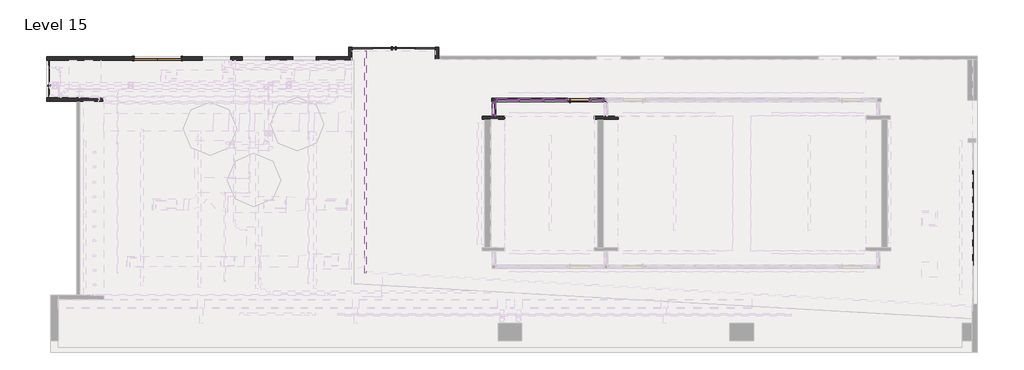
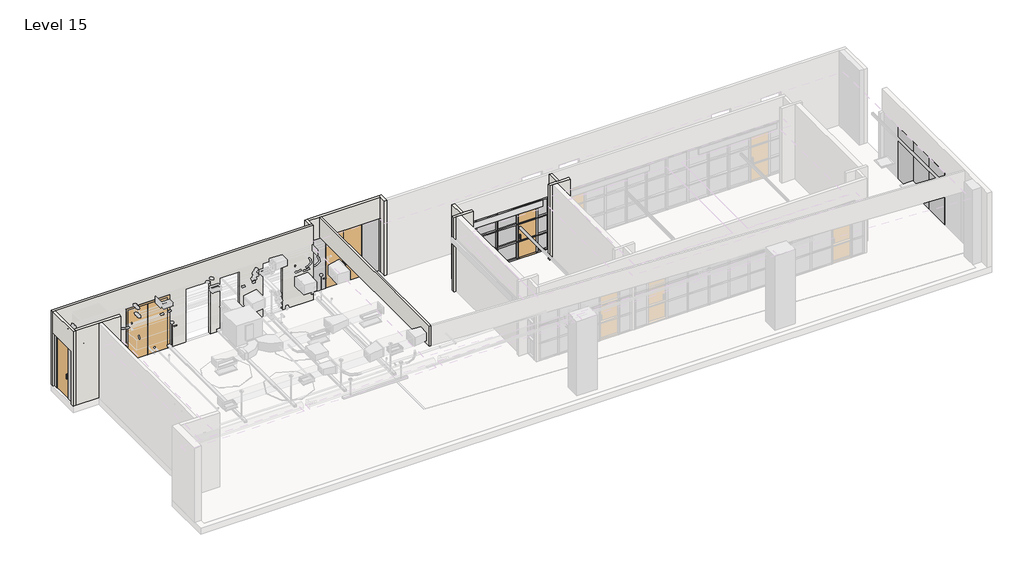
# One storey, part 4 of 11: 47 members, 23 plates, 11 walls, 4 doors.
"""IFC4 building model written with IfcOpenShell, lengths in millimetres."""

from ifc_helpers import new_model, si_unit, origin, place, context, project, spatial, faceted_brep, transform, mapped, element, save
from components import door_curtain_wall_single_glass_door_curtain_wall_single_wood_cd16bc55, door_e38457ce, m_door_curtain_wall_double_glass_m_door_curtain_wall_double_e74171b8, single_glass_door_door_curtain_wall_single_wood_f8af9d99, member_954a25dd, member_69cae7f1, member_69a911c1, member_c4e8739b, member_ae2b344b, member_e8c22809, member_75b1f528, member_4bf900b7, member_0079eb1d, member_377798e7, member_6aaa016f, member_a86ee493, member_0913546c, system_panel_glazed_a2e86c99, system_panel_glazed_5f2f0821, system_panel_glazed_c55544b5, system_panel_glazed_a68344bf, system_panel_glazed_f81f1869, system_panel_glazed_2e07d642, system_panel_glazed_fdbf88a6, system_panel_glazed_5c29f6be, system_panel_glazed_badf3451, system_panel_glazed_af863dd0, system_panel_glazed_a22f7e45, system_panel_glazed_e2c18884, system_panel_glazed_d4d25dca, system_panel_glazed_3e02181d, system_panel_glazed_dd8a9739, system_panel_glazed_3f411a17

model = new_model("IFC4")

# Units and contexts
model_context = context("Model", 3, world=origin())
ifc_project = project(units=[si_unit("LENGTHUNIT", "METRE", prefix="MILLI")], contexts=[model_context])

# Site, building, storey
site = spatial("IfcSite", under=ifc_project)
building = spatial("IfcBuilding", under=site)
storey = spatial("IfcBuildingStorey", under=building, Name="Level 15", Elevation=51206.4)

# Doors
placement = place(None, origin())
door_curtain_wall_single_glass_door_curtain_wall_single_wood_shape = door_curtain_wall_single_glass_door_curtain_wall_single_wood_cd16bc55(model_context)
element("IfcDoor", 1, ObjectType="Door-Curtain-Wall-Single-Glass : Door-Curtain-Wall-Single-Wood", at=placement, inside=storey, context=model_context, shape_type="MappedRepresentation", body=[
    mapped(door_curtain_wall_single_glass_door_curtain_wall_single_wood_shape, transform((2922.6369657, 3036.0059951, 51206.4), x_axis=(1.0, 0.0, 0.0), y_axis=(0.0, 1.0, 0.0), z_axis=(0.0, 0.0, 1.0))),
])
door_shape = door_e38457ce(model_context)
element("IfcDoor", 2, ObjectType="Door-Double-Flush_Panel : 74\" x 100\"", at=placement, inside=storey, context=model_context, shape_type="MappedRepresentation", body=[
    mapped(door_shape, transform((-13882.57525, 4696.9500496, 51206.4), x_axis=(1.0, 0.0, 0.0), y_axis=(0.0, 1.0, 0.0), z_axis=(0.0, 0.0, 1.0))),
])
m_door_curtain_wall_double_glass_m_door_curtain_wall_double_shape = m_door_curtain_wall_double_glass_m_door_curtain_wall_double_e74171b8(model_context)
element("IfcDoor", 3, ObjectType="M_Door-Curtain-Wall-Double-Glass : M_Door-Curtain-Wall-Double-Glass", at=placement, inside=storey, context=model_context, shape_type="MappedRepresentation", body=[
    mapped(m_door_curtain_wall_double_glass_m_door_curtain_wall_double_shape, transform((-4446.9144855, 5072.4081345, 51206.4), x_axis=(1.0, 0.0, 0.0), y_axis=(0.0, 1.0, 0.0), z_axis=(0.0, 0.0, 1.0))),
])
single_glass_door_door_curtain_wall_single_wood_shape = single_glass_door_door_curtain_wall_single_wood_f8af9d99(model_context)
element("IfcDoor", 4, ObjectType="Single-Glass Door : Door-Curtain-Wall-Single-Wood", at=placement, inside=storey, context=model_context, shape_type="MappedRepresentation", body=[
    mapped(single_glass_door_door_curtain_wall_single_wood_shape, transform((-18251.37525, 3976.2250496, 51206.4), x_axis=(0.0, 1.0, 0.0), y_axis=(-1.0, 0.0, 0.0), z_axis=(0.0, 0.0, 1.0))),
])

# Members
member_shape = member_954a25dd(model_context)
element("IfcMember", 5, ObjectType="Rectangular Mullion : 2.5\" x 5\" rectangular", at=placement, inside=storey, context=model_context, shape_type="MappedRepresentation", body=[
    mapped(member_shape, transform((4027.5369657, 2953.5059951, 51206.4), x_axis=(0.0, 1.0, 0.0), y_axis=(1.0, 0.0, 0.0), z_axis=(0.0, 0.0, -1.0))),
])
element("IfcMember", 6, ObjectType="Rectangular Mullion : 2.5\" x 5\" rectangular", at=placement, inside=storey, context=model_context, shape_type="MappedRepresentation", body=[
    mapped(member_shape, transform((-402.1055951, 3036.0059951, 51206.4), x_axis=(-1.0, 0.0, 0.0), y_axis=(0.0, 1.0, 0.0), z_axis=(0.0, 0.0, -1.0))),
])
element("IfcMember", 7, ObjectType="Rectangular Mullion : 2.5\" x 5\" rectangular", at=placement, inside=storey, context=model_context, shape_type="MappedRepresentation", body=[
    mapped(member_shape, transform((-442.9144534, 2976.416042, 51206.4), x_axis=(0.0, 1.0, 0.0), y_axis=(1.0, 0.0, 0.0), z_axis=(0.0, 0.0, -1.0))),
])
element("IfcMember", 8, ObjectType="Rectangular Mullion : 2.5\" x 5\" rectangular", at=placement, inside=storey, context=model_context, shape_type="MappedRepresentation", body=[
    mapped(member_shape, transform((3949.4264687, 3036.0059951, 53804.1570075), x_axis=(1.0, 0.0, 0.0), y_axis=(0.0, 1.0, 0.0), z_axis=(0.0, 0.0, 1.0))),
])
element("IfcMember", 9, ObjectType="Rectangular Mullion : 2.5\" x 5\" rectangular", at=placement, inside=storey, context=model_context, shape_type="MappedRepresentation", body=[
    mapped(member_shape, transform((-442.9144534, 2388.3059951, 53804.1570075), x_axis=(0.0, -1.0, 0.0), y_axis=(1.0, 0.0, 0.0), z_axis=(0.0, 0.0, 1.0))),
])
member_2_shape = member_69cae7f1(model_context)
element("IfcMember", 10, ObjectType="Rectangular Mullion : 2.5\" x 5\" rectangular", at=placement, inside=storey, context=model_context, shape_type="MappedRepresentation", body=[
    mapped(member_2_shape, transform((2465.4369657, 3036.0059951, 51206.4), x_axis=(-1.0, 0.0, 0.0), y_axis=(0.0, 1.0, 0.0), z_axis=(0.0, 0.0, -1.0))),
])
element("IfcMember", 11, ObjectType="Rectangular Mullion : 2.5\" x 5\" rectangular", at=placement, inside=storey, context=model_context, shape_type="MappedRepresentation", body=[
    mapped(member_2_shape, transform((3379.8369657, 3036.0059951, 51206.4), x_axis=(-1.0, 0.0, 0.0), y_axis=(0.0, 1.0, 0.0), z_axis=(0.0, 0.0, -1.0))),
])
element("IfcMember", 12, ObjectType="Rectangular Mullion : 2.5\" x 5\" rectangular", at=placement, inside=storey, context=model_context, shape_type="MappedRepresentation", body=[
    mapped(member_2_shape, transform((1517.1531593, 3036.0059951, 51206.4), x_axis=(-1.0, 0.0, 0.0), y_axis=(0.0, 1.0, 0.0), z_axis=(0.0, 0.0, -1.0))),
])
element("IfcMember", 13, ObjectType="Rectangular Mullion : 2.5\" x 5\" rectangular", at=placement, inside=storey, context=model_context, shape_type="MappedRepresentation", body=[
    mapped(member_2_shape, transform((528.6355466, 3036.0059951, 51206.4), x_axis=(-1.0, 0.0, 0.0), y_axis=(0.0, 1.0, 0.0), z_axis=(0.0, 0.0, -1.0))),
])
element("IfcMember", 14, ObjectType="Rectangular Mullion : 2.5\" x 5\" rectangular", at=placement, inside=storey, context=model_context, shape_type="MappedRepresentation", body=[
    mapped(member_2_shape, transform((3379.8369657, 3036.0059951, 52938.238005), x_axis=(-1.0, 0.0, 0.0), y_axis=(0.0, 1.0, 0.0), z_axis=(0.0, 0.0, -1.0))),
])
element("IfcMember", 15, ObjectType="Rectangular Mullion : 2.5\" x 5\" rectangular", at=placement, inside=storey, context=model_context, shape_type="MappedRepresentation", body=[
    mapped(member_2_shape, transform((2465.4369657, 3036.0059951, 52938.238005), x_axis=(-1.0, 0.0, 0.0), y_axis=(0.0, 1.0, 0.0), z_axis=(0.0, 0.0, -1.0))),
])
element("IfcMember", 16, ObjectType="Rectangular Mullion : 2.5\" x 5\" rectangular", at=placement, inside=storey, context=model_context, shape_type="MappedRepresentation", body=[
    mapped(member_2_shape, transform((1517.1531593, 3036.0059951, 52938.238005), x_axis=(-1.0, 0.0, 0.0), y_axis=(0.0, 1.0, 0.0), z_axis=(0.0, 0.0, -1.0))),
])
element("IfcMember", 17, ObjectType="Rectangular Mullion : 2.5\" x 5\" rectangular", at=placement, inside=storey, context=model_context, shape_type="MappedRepresentation", body=[
    mapped(member_2_shape, transform((528.6355466, 3036.0059951, 52938.238005), x_axis=(-1.0, 0.0, 0.0), y_axis=(0.0, 1.0, 0.0), z_axis=(0.0, 0.0, -1.0))),
])
element("IfcMember", 18, ObjectType="Rectangular Mullion : 2.5\" x 5\" rectangular", at=placement, inside=storey, context=model_context, shape_type="MappedRepresentation", body=[
    mapped(member_2_shape, transform((3379.8369657, 3036.0059951, 52072.3190025), x_axis=(-1.0, 0.0, 0.0), y_axis=(0.0, 1.0, 0.0), z_axis=(0.0, 0.0, -1.0))),
])
element("IfcMember", 19, ObjectType="Rectangular Mullion : 2.5\" x 5\" rectangular", at=placement, inside=storey, context=model_context, shape_type="MappedRepresentation", body=[
    mapped(member_2_shape, transform((2465.4369657, 3036.0059951, 52072.3190025), x_axis=(-1.0, 0.0, 0.0), y_axis=(0.0, 1.0, 0.0), z_axis=(0.0, 0.0, -1.0))),
])
element("IfcMember", 20, ObjectType="Rectangular Mullion : 2.5\" x 5\" rectangular", at=placement, inside=storey, context=model_context, shape_type="MappedRepresentation", body=[
    mapped(member_2_shape, transform((1517.1531593, 3036.0059951, 52072.3190025), x_axis=(-1.0, 0.0, 0.0), y_axis=(0.0, 1.0, 0.0), z_axis=(0.0, 0.0, -1.0))),
])
element("IfcMember", 21, ObjectType="Rectangular Mullion : 2.5\" x 5\" rectangular", at=placement, inside=storey, context=model_context, shape_type="MappedRepresentation", body=[
    mapped(member_2_shape, transform((528.6355466, 3036.0059951, 52072.3190025), x_axis=(-1.0, 0.0, 0.0), y_axis=(0.0, 1.0, 0.0), z_axis=(0.0, 0.0, -1.0))),
])
member_3_shape = member_69a911c1(model_context)
element("IfcMember", 22, ObjectType="Rectangular Mullion : 2.5\" x 5\" rectangular", at=placement, inside=storey, context=model_context, shape_type="MappedRepresentation", body=[
    mapped(member_3_shape, transform((4027.5369657, 2890.0059951, 53804.1570075), x_axis=(0.0, 0.0, 1.0), y_axis=(1.0, 0.0, 0.0), z_axis=(0.0, 1.0, 0.0))),
])
element("IfcMember", 23, ObjectType="Rectangular Mullion : 2.5\" x 5\" rectangular", at=placement, inside=storey, context=model_context, shape_type="MappedRepresentation", body=[
    mapped(member_3_shape, transform((4027.5369657, 2458.2059951, 51206.4), x_axis=(0.0, 0.0, -1.0), y_axis=(1.0, 0.0, 0.0), z_axis=(0.0, -1.0, 0.0))),
])
member_4_shape = member_c4e8739b(model_context)
element("IfcMember", 24, ObjectType="Rectangular Mullion : 2.5\" x 5\" rectangular", at=placement, inside=storey, context=model_context, shape_type="MappedRepresentation", body=[
    mapped(member_4_shape, transform((2433.6869657, 3036.0059951, 51206.4), x_axis=(0.0, 0.0, -1.0), y_axis=(0.0, 1.0, 0.0), z_axis=(1.0, 0.0, 0.0))),
])
member_5_shape = member_ae2b344b(model_context)
element("IfcMember", 25, ObjectType="Rectangular Mullion : 2.5\" x 5\" rectangular", at=placement, inside=storey, context=model_context, shape_type="MappedRepresentation", body=[
    mapped(member_5_shape, transform((1548.9031593, 3036.0059951, 52938.238005), x_axis=(0.0, 0.0, 1.0), y_axis=(0.0, 1.0, 0.0), z_axis=(-1.0, 0.0, 0.0))),
])
element("IfcMember", 26, ObjectType="Rectangular Mullion : 2.5\" x 5\" rectangular", at=placement, inside=storey, context=model_context, shape_type="MappedRepresentation", body=[
    mapped(member_5_shape, transform((1548.9031593, 3036.0059951, 52072.3190025), x_axis=(0.0, 0.0, 1.0), y_axis=(0.0, 1.0, 0.0), z_axis=(-1.0, 0.0, 0.0))),
])
element("IfcMember", 27, ObjectType="Rectangular Mullion : 2.5\" x 5\" rectangular", at=placement, inside=storey, context=model_context, shape_type="MappedRepresentation", body=[
    mapped(member_4_shape, transform((1548.9031593, 3036.0059951, 53804.1570075), x_axis=(0.0, 0.0, 1.0), y_axis=(0.0, 1.0, 0.0), z_axis=(-1.0, 0.0, 0.0))),
])
member_6_shape = member_e8c22809(model_context)
element("IfcMember", 28, ObjectType="Rectangular Mullion : 2.5\" x 5\" rectangular", at=placement, inside=storey, context=model_context, shape_type="MappedRepresentation", body=[
    mapped(member_6_shape, transform((1485.4031593, 3036.0059951, 51206.4), x_axis=(0.0, 0.0, -1.0), y_axis=(0.0, 1.0, 0.0), z_axis=(1.0, 0.0, 0.0))),
])
member_7_shape = member_75b1f528(model_context)
element("IfcMember", 29, ObjectType="Rectangular Mullion : 2.5\" x 5\" rectangular", at=placement, inside=storey, context=model_context, shape_type="MappedRepresentation", body=[
    mapped(member_7_shape, transform((560.3855466, 3036.0059951, 52072.3190025), x_axis=(0.0, 0.0, 1.0), y_axis=(0.0, 1.0, 0.0), z_axis=(-1.0, 0.0, 0.0))),
])
element("IfcMember", 30, ObjectType="Rectangular Mullion : 2.5\" x 5\" rectangular", at=placement, inside=storey, context=model_context, shape_type="MappedRepresentation", body=[
    mapped(member_7_shape, transform((560.3855466, 3036.0059951, 52938.238005), x_axis=(0.0, 0.0, 1.0), y_axis=(0.0, 1.0, 0.0), z_axis=(-1.0, 0.0, 0.0))),
])
element("IfcMember", 31, ObjectType="Rectangular Mullion : 2.5\" x 5\" rectangular", at=placement, inside=storey, context=model_context, shape_type="MappedRepresentation", body=[
    mapped(member_6_shape, transform((560.3855466, 3036.0059951, 53804.1570075), x_axis=(0.0, 0.0, 1.0), y_axis=(0.0, 1.0, 0.0), z_axis=(-1.0, 0.0, 0.0))),
])
element("IfcMember", 32, ObjectType="Rectangular Mullion : 2.5\" x 5\" rectangular", at=placement, inside=storey, context=model_context, shape_type="MappedRepresentation", body=[
    mapped(member_shape, transform((-402.1055951, 3036.0059951, 52938.238005), x_axis=(-1.0, 0.0, 0.0), y_axis=(0.0, 1.0, 0.0), z_axis=(0.0, 0.0, -1.0))),
])
element("IfcMember", 33, ObjectType="Rectangular Mullion : 2.5\" x 5\" rectangular", at=placement, inside=storey, context=model_context, shape_type="MappedRepresentation", body=[
    mapped(member_shape, transform((-442.9144534, 2976.416042, 52938.238005), x_axis=(0.0, 1.0, 0.0), y_axis=(1.0, 0.0, 0.0), z_axis=(0.0, 0.0, -1.0))),
])
element("IfcMember", 34, ObjectType="Rectangular Mullion : 2.5\" x 5\" rectangular", at=placement, inside=storey, context=model_context, shape_type="MappedRepresentation", body=[
    mapped(member_shape, transform((3949.4264687, 3036.0059951, 52938.238005), x_axis=(1.0, 0.0, 0.0), y_axis=(0.0, 1.0, 0.0), z_axis=(0.0, 0.0, 1.0))),
])
element("IfcMember", 35, ObjectType="Rectangular Mullion : 2.5\" x 5\" rectangular", at=placement, inside=storey, context=model_context, shape_type="MappedRepresentation", body=[
    mapped(member_shape, transform((-442.9144534, 2388.3059951, 52938.238005), x_axis=(0.0, -1.0, 0.0), y_axis=(1.0, 0.0, 0.0), z_axis=(0.0, 0.0, 1.0))),
])
element("IfcMember", 36, ObjectType="Rectangular Mullion : 2.5\" x 5\" rectangular", at=placement, inside=storey, context=model_context, shape_type="MappedRepresentation", body=[
    mapped(member_shape, transform((-402.1055951, 3036.0059951, 52072.3190025), x_axis=(-1.0, 0.0, 0.0), y_axis=(0.0, 1.0, 0.0), z_axis=(0.0, 0.0, -1.0))),
])
element("IfcMember", 37, ObjectType="Rectangular Mullion : 2.5\" x 5\" rectangular", at=placement, inside=storey, context=model_context, shape_type="MappedRepresentation", body=[
    mapped(member_shape, transform((-442.9144534, 2976.416042, 52072.3190025), x_axis=(0.0, 1.0, 0.0), y_axis=(1.0, 0.0, 0.0), z_axis=(0.0, 0.0, -1.0))),
])
element("IfcMember", 38, ObjectType="Rectangular Mullion : 2.5\" x 5\" rectangular", at=placement, inside=storey, context=model_context, shape_type="MappedRepresentation", body=[
    mapped(member_shape, transform((3949.4264687, 3036.0059951, 52072.3190025), x_axis=(1.0, 0.0, 0.0), y_axis=(0.0, 1.0, 0.0), z_axis=(0.0, 0.0, 1.0))),
])
element("IfcMember", 39, ObjectType="Rectangular Mullion : 2.5\" x 5\" rectangular", at=placement, inside=storey, context=model_context, shape_type="MappedRepresentation", body=[
    mapped(member_shape, transform((-442.9144534, 2388.3059951, 52072.3190025), x_axis=(0.0, -1.0, 0.0), y_axis=(1.0, 0.0, 0.0), z_axis=(0.0, 0.0, 1.0))),
])
member_8_shape = member_4bf900b7(model_context)
element("IfcMember", 40, ObjectType="Rectangular Mullion : 2.5\" x 5\" rectangular", at=placement, inside=storey, context=model_context, shape_type="MappedRepresentation", body=[
    mapped(member_8_shape, transform((-338.6055951, 3036.0059951, 53804.1570075), x_axis=(0.0, 0.0, 1.0), y_axis=(0.0, 1.0, 0.0), z_axis=(-1.0, 0.0, 0.0))),
])
member_9_shape = member_0079eb1d(model_context)
element("IfcMember", 41, ObjectType="Rectangular Mullion : 2.5\" x 5\" rectangular", at=placement, inside=storey, context=model_context, shape_type="MappedRepresentation", body=[
    mapped(member_9_shape, transform((3885.9264687, 3036.0059951, 51206.4), x_axis=(0.0, 0.0, -1.0), y_axis=(0.0, 1.0, 0.0), z_axis=(1.0, 0.0, 0.0))),
])
element("IfcMember", 42, ObjectType="Rectangular Mullion : 2.5\" x 5\" rectangular", at=placement, inside=storey, context=model_context, shape_type="MappedRepresentation", body=[
    mapped(member_9_shape, transform((3411.5869657, 3036.0059951, 53804.1570075), x_axis=(0.0, 0.0, 1.0), y_axis=(0.0, 1.0, 0.0), z_axis=(-1.0, 0.0, 0.0))),
])
member_10_shape = member_377798e7(model_context)
element("IfcMember", 43, ObjectType="Rectangular Mullion : 2.5\" x 5\" rectangular", at=placement, inside=storey, context=model_context, shape_type="MappedRepresentation", body=[
    mapped(member_10_shape, transform((3411.5869657, 3036.0059951, 52938.238005), x_axis=(0.0, 0.0, 1.0), y_axis=(0.0, 1.0, 0.0), z_axis=(-1.0, 0.0, 0.0))),
])
element("IfcMember", 44, ObjectType="Rectangular Mullion : 2.5\" x 5\" rectangular", at=placement, inside=storey, context=model_context, shape_type="MappedRepresentation", body=[
    mapped(member_10_shape, transform((3411.5869657, 3036.0059951, 52072.3190025), x_axis=(0.0, 0.0, 1.0), y_axis=(0.0, 1.0, 0.0), z_axis=(-1.0, 0.0, 0.0))),
])
element("IfcMember", 45, ObjectType="Rectangular Mullion : 2.5\" x 5\" rectangular", at=placement, inside=storey, context=model_context, shape_type="MappedRepresentation", body=[
    mapped(member_8_shape, transform((496.8855466, 3036.0059951, 51206.4), x_axis=(0.0, 0.0, -1.0), y_axis=(0.0, 1.0, 0.0), z_axis=(1.0, 0.0, 0.0))),
])
member_11_shape = member_6aaa016f(model_context)
element("IfcMember", 46, ObjectType="Rectangular Mullion : 2.5\" x 5\" rectangular", at=placement, inside=storey, context=model_context, shape_type="MappedRepresentation", body=[
    mapped(member_11_shape, transform((-338.6055951, 3036.0059951, 52072.3190025), x_axis=(0.0, 0.0, 1.0), y_axis=(0.0, 1.0, 0.0), z_axis=(-1.0, 0.0, 0.0))),
])
element("IfcMember", 47, ObjectType="Rectangular Mullion : 2.5\" x 5\" rectangular", at=placement, inside=storey, context=model_context, shape_type="MappedRepresentation", body=[
    mapped(member_11_shape, transform((-338.6055951, 3036.0059951, 52938.238005), x_axis=(0.0, 0.0, 1.0), y_axis=(0.0, 1.0, 0.0), z_axis=(-1.0, 0.0, 0.0))),
])
member_12_shape = member_a86ee493(model_context)
element("IfcMember", 48, ObjectType="Rectangular Mullion : 2.5\" x 5\" rectangular", at=placement, inside=storey, context=model_context, shape_type="MappedRepresentation", body=[
    mapped(member_12_shape, transform((-442.9144534, 2912.916042, 53804.1570075), x_axis=(0.0, 0.0, 1.0), y_axis=(1.0, 0.0, 0.0), z_axis=(0.0, 1.0, 0.0))),
])
element("IfcMember", 49, ObjectType="Rectangular Mullion : 2.5\" x 5\" rectangular", at=placement, inside=storey, context=model_context, shape_type="MappedRepresentation", body=[
    mapped(member_12_shape, transform((-442.9144534, 2451.8059951, 51206.4), x_axis=(0.0, 0.0, -1.0), y_axis=(1.0, 0.0, 0.0), z_axis=(0.0, -1.0, 0.0))),
])
member_13_shape = member_0913546c(model_context)
element("IfcMember", 50, ObjectType="Rectangular Mullion : 2.5\" x 5\" rectangular", at=placement, inside=storey, context=model_context, shape_type="MappedRepresentation", body=[
    mapped(member_13_shape, transform((-442.9144534, 2912.916042, 52938.238005), x_axis=(0.0, 0.0, 1.0), y_axis=(1.0, 0.0, 0.0), z_axis=(0.0, 1.0, 0.0))),
])
element("IfcMember", 51, ObjectType="Rectangular Mullion : 2.5\" x 5\" rectangular", at=placement, inside=storey, context=model_context, shape_type="MappedRepresentation", body=[
    mapped(member_13_shape, transform((-442.9144534, 2912.916042, 52072.3190025), x_axis=(0.0, 0.0, 1.0), y_axis=(1.0, 0.0, 0.0), z_axis=(0.0, 1.0, 0.0))),
])

# Plates
system_panel_glazed_shape = system_panel_glazed_a2e86c99(model_context)
element("IfcPlate", 52, ObjectType="System Panel : Glazed", at=placement, inside=storey, context=model_context, shape_type="MappedRepresentation", body=[
    mapped(system_panel_glazed_shape, transform((18645.0084916, -411.2064015, 51206.4), x_axis=(0.0, -1.0, 0.0), y_axis=(1.0, 0.0, 0.0), z_axis=(0.0, 0.0, 1.0))),
])
element("IfcPlate", 53, ObjectType="System Panel : Glazed", at=placement, inside=storey, context=model_context, shape_type="MappedRepresentation", body=[
    mapped(system_panel_glazed_shape, transform((18645.0084916, -1681.2064015, 51206.4), x_axis=(0.0, -1.0, 0.0), y_axis=(1.0, 0.0, 0.0), z_axis=(0.0, 0.0, 1.0))),
])
element("IfcPlate", 54, ObjectType="System Panel : Glazed", at=placement, inside=storey, context=model_context, shape_type="MappedRepresentation", body=[
    mapped(system_panel_glazed_shape, transform((18645.0084916, -2951.2064015, 51206.4), x_axis=(0.0, -1.0, 0.0), y_axis=(1.0, 0.0, 0.0), z_axis=(0.0, 0.0, 1.0))),
])
system_panel_glazed_2_shape = system_panel_glazed_5f2f0821(model_context)
element("IfcPlate", 55, ObjectType="System Panel : Glazed", at=placement, inside=storey, context=model_context, shape_type="MappedRepresentation", body=[
    mapped(system_panel_glazed_2_shape, transform((4027.5369657, 2674.1059951, 51269.9), x_axis=(0.0, 1.0, 0.0), y_axis=(-1.0, 0.0, 0.0), z_axis=(0.0, 0.0, 1.0))),
])
system_panel_glazed_3_shape = system_panel_glazed_c55544b5(model_context)
element("IfcPlate", 56, ObjectType="System Panel : Glazed", at=placement, inside=storey, context=model_context, shape_type="MappedRepresentation", body=[
    mapped(system_panel_glazed_3_shape, transform((1991.2950625, 3036.0059951, 51269.9), x_axis=(-1.0, 0.0, 0.0), y_axis=(0.0, -1.0, 0.0), z_axis=(0.0, 0.0, 1.0))),
])
element("IfcPlate", 57, ObjectType="System Panel : Glazed", at=placement, inside=storey, context=model_context, shape_type="MappedRepresentation", body=[
    mapped(system_panel_glazed_3_shape, transform((1991.2950625, 3036.0059951, 52969.988005), x_axis=(-1.0, 0.0, 0.0), y_axis=(0.0, -1.0, 0.0), z_axis=(0.0, 0.0, 1.0))),
])
system_panel_glazed_4_shape = system_panel_glazed_a68344bf(model_context)
element("IfcPlate", 58, ObjectType="System Panel : Glazed", at=placement, inside=storey, context=model_context, shape_type="MappedRepresentation", body=[
    mapped(system_panel_glazed_4_shape, transform((1991.2950625, 3036.0059951, 52104.0690025), x_axis=(-1.0, 0.0, 0.0), y_axis=(0.0, -1.0, 0.0), z_axis=(0.0, 0.0, 1.0))),
])
system_panel_glazed_5_shape = system_panel_glazed_f81f1869(model_context)
element("IfcPlate", 59, ObjectType="System Panel : Glazed", at=placement, inside=storey, context=model_context, shape_type="MappedRepresentation", body=[
    mapped(system_panel_glazed_5_shape, transform((1022.894353, 3036.0059951, 51269.9), x_axis=(-1.0, 0.0, 0.0), y_axis=(0.0, -1.0, 0.0), z_axis=(0.0, 0.0, 1.0))),
])
element("IfcPlate", 60, ObjectType="System Panel : Glazed", at=placement, inside=storey, context=model_context, shape_type="MappedRepresentation", body=[
    mapped(system_panel_glazed_5_shape, transform((1022.894353, 3036.0059951, 52969.988005), x_axis=(-1.0, 0.0, 0.0), y_axis=(0.0, -1.0, 0.0), z_axis=(0.0, 0.0, 1.0))),
])
system_panel_glazed_6_shape = system_panel_glazed_2e07d642(model_context)
element("IfcPlate", 61, ObjectType="System Panel : Glazed", at=placement, inside=storey, context=model_context, shape_type="MappedRepresentation", body=[
    mapped(system_panel_glazed_6_shape, transform((1022.894353, 3036.0059951, 52104.0690025), x_axis=(-1.0, 0.0, 0.0), y_axis=(0.0, -1.0, 0.0), z_axis=(0.0, 0.0, 1.0))),
])
system_panel_glazed_7_shape = system_panel_glazed_fdbf88a6(model_context)
element("IfcPlate", 62, ObjectType="System Panel : Glazed", at=placement, inside=storey, context=model_context, shape_type="MappedRepresentation", body=[
    mapped(system_panel_glazed_7_shape, transform((3648.7567172, 3036.0059951, 51269.9), x_axis=(-1.0, 0.0, 0.0), y_axis=(0.0, -1.0, 0.0), z_axis=(0.0, 0.0, 1.0))),
])
element("IfcPlate", 63, ObjectType="System Panel : Glazed", at=placement, inside=storey, context=model_context, shape_type="MappedRepresentation", body=[
    mapped(system_panel_glazed_7_shape, transform((3648.7567172, 3036.0059951, 52969.988005), x_axis=(-1.0, 0.0, 0.0), y_axis=(0.0, -1.0, 0.0), z_axis=(0.0, 0.0, 1.0))),
])
system_panel_glazed_8_shape = system_panel_glazed_5c29f6be(model_context)
element("IfcPlate", 64, ObjectType="System Panel : Glazed", at=placement, inside=storey, context=model_context, shape_type="MappedRepresentation", body=[
    mapped(system_panel_glazed_8_shape, transform((-442.9144534, 2682.3610185, 51269.9), x_axis=(0.0, 1.0, 0.0), y_axis=(-1.0, 0.0, 0.0), z_axis=(0.0, 0.0, 1.0))),
])
element("IfcPlate", 65, ObjectType="System Panel : Glazed", at=placement, inside=storey, context=model_context, shape_type="MappedRepresentation", body=[
    mapped(system_panel_glazed_8_shape, transform((-442.9144534, 2682.3610185, 52969.988005), x_axis=(0.0, 1.0, 0.0), y_axis=(-1.0, 0.0, 0.0), z_axis=(0.0, 0.0, 1.0))),
])
system_panel_glazed_9_shape = system_panel_glazed_badf3451(model_context)
element("IfcPlate", 66, ObjectType="System Panel : Glazed", at=placement, inside=storey, context=model_context, shape_type="MappedRepresentation", body=[
    mapped(system_panel_glazed_9_shape, transform((3648.7567172, 3036.0059951, 52104.0690025), x_axis=(-1.0, 0.0, 0.0), y_axis=(0.0, -1.0, 0.0), z_axis=(0.0, 0.0, 1.0))),
])
system_panel_glazed_10_shape = system_panel_glazed_af863dd0(model_context)
element("IfcPlate", 67, ObjectType="System Panel : Glazed", at=placement, inside=storey, context=model_context, shape_type="MappedRepresentation", body=[
    mapped(system_panel_glazed_10_shape, transform((79.1399758, 3036.0059951, 51269.9), x_axis=(-1.0, 0.0, 0.0), y_axis=(0.0, -1.0, 0.0), z_axis=(0.0, 0.0, 1.0))),
])
element("IfcPlate", 68, ObjectType="System Panel : Glazed", at=placement, inside=storey, context=model_context, shape_type="MappedRepresentation", body=[
    mapped(system_panel_glazed_10_shape, transform((79.1399758, 3036.0059951, 52969.988005), x_axis=(-1.0, 0.0, 0.0), y_axis=(0.0, -1.0, 0.0), z_axis=(0.0, 0.0, 1.0))),
])
system_panel_glazed_11_shape = system_panel_glazed_a22f7e45(model_context)
element("IfcPlate", 69, ObjectType="System Panel : Glazed", at=placement, inside=storey, context=model_context, shape_type="MappedRepresentation", body=[
    mapped(system_panel_glazed_11_shape, transform((79.1399758, 3036.0059951, 52104.0690025), x_axis=(-1.0, 0.0, 0.0), y_axis=(0.0, -1.0, 0.0), z_axis=(0.0, 0.0, 1.0))),
])
system_panel_glazed_12_shape = system_panel_glazed_e2c18884(model_context)
element("IfcPlate", 70, ObjectType="System Panel : Glazed", at=placement, inside=storey, context=model_context, shape_type="MappedRepresentation", body=[
    mapped(system_panel_glazed_12_shape, transform((-442.9144534, 2682.3610185, 52104.0690025), x_axis=(0.0, 1.0, 0.0), y_axis=(-1.0, 0.0, 0.0), z_axis=(0.0, 0.0, 1.0))),
])
system_panel_glazed_13_shape = system_panel_glazed_d4d25dca(model_context)
element("IfcPlate", 71, ObjectType="System Panel : Glazed", at=placement, inside=storey, context=model_context, shape_type="MappedRepresentation", body=[
    mapped(system_panel_glazed_13_shape, transform((-18251.37525, 4533.4375496, 51206.4), x_axis=(0.0, -1.0, 0.0), y_axis=(1.0, 0.0, 0.0), z_axis=(0.0, 0.0, 1.0))),
])
system_panel_glazed_14_shape = system_panel_glazed_3e02181d(model_context)
element("IfcPlate", 72, ObjectType="System Panel : Glazed", at=placement, inside=storey, context=model_context, shape_type="MappedRepresentation", body=[
    mapped(system_panel_glazed_14_shape, transform((-18251.37525, 3328.5250496, 51206.4), x_axis=(0.0, -1.0, 0.0), y_axis=(1.0, 0.0, 0.0), z_axis=(0.0, 0.0, 1.0))),
])
system_panel_glazed_15_shape = system_panel_glazed_dd8a9739(model_context)
element("IfcPlate", 73, ObjectType="System Panel : Glazed", at=placement, inside=storey, context=model_context, shape_type="MappedRepresentation", body=[
    mapped(system_panel_glazed_15_shape, transform((-3199.4811847, 5072.4081345, 51206.4), x_axis=(1.0, 0.0, 0.0), y_axis=(0.0, 1.0, 0.0), z_axis=(0.0, 0.0, 1.0))),
])
system_panel_glazed_16_shape = system_panel_glazed_3f411a17(model_context)
element("IfcPlate", 74, ObjectType="System Panel : Glazed", at=placement, inside=storey, context=model_context, shape_type="MappedRepresentation", body=[
    mapped(system_panel_glazed_16_shape, transform((-5691.5144855, 5072.4081345, 51206.4), x_axis=(1.0, 0.0, 0.0), y_axis=(0.0, 1.0, 0.0), z_axis=(0.0, 0.0, 1.0))),
])

# Walls
element("IfcWall", 75, ObjectType="Generic - 3\"", at=placement, inside=storey, context=model_context, shape_type="Brep", body=[
    faceted_brep([(-5614.87525, 5008.9081345, 53889.275), (-5614.87525, -3879.7923298, 53889.275), (-5614.87525, -3879.7923298, 54889.4), (-5614.87525, 5008.9081345, 54889.4), (-5538.67525, 5008.9081345, 53889.275), (-5538.67525, 5008.9081345, 54889.4), (-5538.67525, -3807.7325414, 54889.4), (-5538.67525, -3884.0514798, 54889.4), (-5538.67525, -3884.0514798, 53889.275), (-5538.67525, -3807.7325414, 53889.275)], [[[0, 1, 2, 3]], [[4, 5, 6, 7, 8, 9]], [[1, 0, 4, 9, 8]], [[3, 2, 7, 6, 5]], [[0, 3, 5, 4]], [[2, 1, 8, 7]]]),
])
element("IfcWall", 76, ObjectType="Generic - 5\"", at=placement, inside=storey, context=model_context, shape_type="Brep", body=[
    faceted_brep([(-18314.87525, 4760.4500496, 54889.4), (-6249.87525, 4760.4500496, 54889.4), (-6122.87525, 4760.4500496, 54889.4), (-6122.87525, 4760.4500496, 51206.4), (-6249.87525, 4760.4500496, 51206.4), (-7547.97525, 4760.4500496, 51206.4), (-7547.97525, 4760.4500496, 53807.2), (-8482.37525, 4760.4500496, 53807.2), (-8482.37525, 4760.4500496, 51206.4), (-9567.27525, 4760.4500496, 51206.4), (-9567.27525, 4760.4500496, 53807.2), (-10501.67525, 4760.4500496, 53807.2), (-10501.67525, 4760.4500496, 51206.4), (-10951.57525, 4760.4500496, 51206.4), (-10951.57525, 4760.4500496, 53807.2), (-12089.17525, 4760.4500496, 53807.2), (-12089.17525, 4760.4500496, 51206.4), (-12942.77525, 4760.4500496, 51206.4), (-12942.77525, 4760.4500496, 53746.4), (-14822.37525, 4760.4500496, 53746.4), (-14822.37525, 4760.4500496, 51206.4), (-18314.87525, 4760.4500496, 51206.4), (-6122.87525, 4633.4500496, 54889.4), (-18187.87525, 4633.4500496, 54889.4), (-18314.87525, 4633.4500496, 54889.4), (-18314.87525, 4633.4500496, 53847.180647), (-18314.87525, 4633.4500496, 51206.4), (-14822.37525, 4633.4500496, 51206.4), (-14822.37525, 4633.4500496, 53746.4), (-12942.77525, 4633.4500496, 53746.4), (-12942.77525, 4633.4500496, 51206.4), (-12089.17525, 4633.4500496, 51206.4), (-12089.17525, 4633.4500496, 53807.2), (-10951.57525, 4633.4500496, 53807.2), (-10951.57525, 4633.4500496, 51206.4), (-10501.67525, 4633.4500496, 51206.4), (-10501.67525, 4633.4500496, 53807.2), (-9567.27525, 4633.4500496, 53807.2), (-9567.27525, 4633.4500496, 51206.4), (-8482.37525, 4633.4500496, 51206.4), (-8482.37525, 4633.4500496, 53807.2), (-7547.97525, 4633.4500496, 53807.2), (-7547.97525, 4633.4500496, 51206.4), (-6122.87525, 4633.4500496, 51206.4)], [[[0, 1, 2, 3, 4, 5, 6, 7, 8, 9, 10, 11, 12, 13, 14, 15, 16, 17, 18, 19, 20, 21]], [[22, 23, 24, 25, 26, 27, 28, 29, 30, 31, 32, 33, 34, 35, 36, 37, 38, 39, 40, 41, 42, 43]], [[3, 43, 42, 5, 4]], [[26, 21, 20, 27]], [[30, 17, 16, 31]], [[34, 13, 12, 35]], [[8, 39, 38, 9]], [[2, 1, 0, 24, 23, 22]], [[3, 2, 22, 43]], [[0, 21, 26, 25, 24]], [[29, 18, 17, 30]], [[18, 29, 28, 19]], [[19, 28, 27, 20]], [[33, 14, 13, 34]], [[14, 33, 32, 15]], [[15, 32, 31, 16]], [[41, 6, 5, 42]], [[6, 41, 40, 7]], [[7, 40, 39, 8]], [[11, 36, 35, 12]], [[36, 11, 10, 37]], [[37, 10, 9, 38]]]),
])
element("IfcWall", 77, ObjectType="Generic - 5\"", at=placement, inside=storey, context=model_context, shape_type="Brep", body=[
    faceted_brep([(-6122.87525, 4760.4500496, 51206.4), (-6122.87525, 5008.9081345, 51206.4), (-6122.87525, 5135.9081345, 51206.4), (-6122.87525, 5135.9081345, 54889.4), (-6122.87525, 5008.9081345, 54889.4), (-6122.87525, 4760.4500496, 54889.4), (-6249.87525, 4760.4500496, 51206.4), (-6249.87525, 4760.4500496, 54889.4), (-6249.87525, 5135.9081345, 54889.4), (-6249.87525, 5135.9081345, 51206.4)], [[[0, 1, 2, 3, 4, 5]], [[6, 7, 8, 9]], [[2, 1, 0, 6, 9]], [[5, 4, 3, 8, 7]], [[0, 5, 7, 6]], [[3, 2, 9, 8]]]),
])
element("IfcWall", 78, ObjectType="Generic - 5\"", at=placement, inside=storey, context=model_context, shape_type="Brep", body=[
    faceted_brep([(-2786.1641198, 5135.9081345, 51206.4), (-2786.1641198, 5008.9081345, 51206.4), (-2786.1641198, 4668.7435985, 51206.4), (-2786.1641198, 4668.7435985, 54889.4), (-2786.1641198, 5008.9081345, 54889.4), (-2786.1641198, 5135.9081345, 54889.4), (-2659.1641198, 5135.9081345, 51206.4), (-2659.1641198, 5135.9081345, 54889.4), (-2659.1641198, 4795.7435985, 54889.4), (-2659.1641198, 4668.7435985, 54889.4), (-2659.1641198, 4668.7435985, 51206.4), (-2659.1641198, 4795.7435985, 51206.4)], [[[0, 1, 2, 3, 4, 5]], [[6, 7, 8, 9, 10, 11]], [[2, 1, 0, 6, 11, 10]], [[5, 4, 3, 9, 8, 7]], [[3, 2, 10, 9]], [[0, 5, 7, 6]]]),
])
element("IfcWall", 79, ObjectType="Generic - 5\"", at=placement, inside=storey, context=model_context, shape_type="Brep", body=[
    faceted_brep([(-18187.87525, 4633.4500496, 54889.4), (-18187.87525, 3138.0250496, 54889.4), (-18187.87525, 2985.6250496, 54889.4), (-18187.87525, 2985.6250496, 51206.4), (-18187.87525, 3138.0250496, 51206.4), (-18187.87525, 3138.0250496, 53847.180647), (-18187.87525, 4633.4500496, 53847.180647), (-18314.87525, 2985.6250496, 54889.4), (-18314.87525, 4633.4500496, 54889.4), (-18314.87525, 4633.4500496, 53847.180647), (-18314.87525, 3138.0250496, 53847.180647), (-18314.87525, 3138.0250496, 51206.4), (-18314.87525, 2985.6250496, 51206.4)], [[[0, 1, 2, 3, 4, 5, 6]], [[7, 8, 9, 10, 11, 12]], [[3, 12, 11, 4]], [[2, 1, 0, 8, 7]], [[8, 0, 6, 9]], [[3, 2, 7, 12]], [[5, 10, 9, 6]], [[10, 5, 4, 11]]]),
])
element("IfcWall", 80, ObjectType="Generic - 5\"", at=placement, inside=storey, context=model_context, shape_type="Brep", body=[
    faceted_brep([(-7.6915135, 2388.3059951, 51206.4), (-922.0915135, 2388.3059951, 51206.4), (-922.0915135, 2388.3059951, 54889.4), (-529.1055951, 2388.3059951, 54889.4), (-402.1055951, 2388.3059951, 54889.4), (-7.6915135, 2388.3059951, 54889.4), (-7.6915135, 2261.3059951, 51206.4), (-7.6915135, 2261.3059951, 54889.4), (-585.5415135, 2261.3059951, 54889.4), (-814.1415135, 2261.3059951, 54889.4), (-922.0915135, 2261.3059951, 54889.4), (-922.0915135, 2261.3059951, 51206.4), (-814.1415135, 2261.3059951, 51206.4), (-585.5415135, 2261.3059951, 51206.4)], [[[0, 1, 2, 3, 4, 5]], [[6, 7, 8, 9, 10, 11, 12, 13]], [[1, 0, 6, 13, 12, 11]], [[2, 1, 11, 10]], [[5, 4, 3, 2, 10, 9, 8, 7]], [[0, 5, 7, 6]]]),
])
element("IfcWall", 81, ObjectType="Generic - 5\"", at=placement, inside=storey, context=model_context, shape_type="Brep", body=[
    faceted_brep([(3562.7584916, 2267.7059951, 51206.4), (3697.3369657, 2267.7059951, 51206.4), (3925.9369657, 2267.7059951, 51206.4), (4517.5084916, 2267.7059951, 51206.4), (4517.5084916, 2267.7059951, 54889.4), (3925.9369657, 2267.7059951, 54889.4), (3697.3369657, 2267.7059951, 54889.4), (3562.7584916, 2267.7059951, 54889.4), (3562.7584916, 2394.7059951, 51206.4), (3562.7584916, 2394.7059951, 54889.4), (3949.4264687, 2394.7059951, 54889.4), (4076.4264687, 2394.7059951, 54889.4), (4517.5084916, 2394.7059951, 54889.4), (4517.5084916, 2394.7059951, 51206.4)], [[[0, 1, 2, 3, 4, 5, 6, 7]], [[8, 9, 10, 11, 12, 13]], [[3, 2, 1, 0, 8, 13]], [[4, 3, 13, 12]], [[7, 6, 5, 4, 12, 11, 10, 9]], [[0, 7, 9, 8]]]),
])
element("IfcWall", 82, ObjectType="Generic - 5\"", at=placement, inside=storey, context=model_context, shape_type="Brep", body=[
    faceted_brep([(-402.1055951, 3103.416042, 54889.4), (-402.1055951, 2976.416042, 54889.4), (-402.1055951, 2388.3059951, 54889.4), (-402.1055951, 2388.3059951, 53804.1570075), (-402.1055951, 2976.416042, 53804.1570075), (-402.1055951, 2976.416042, 51206.4), (-402.1055951, 3103.416042, 51206.4), (-402.1055951, 3103.416042, 53804.1570075), (-529.1055951, 2388.3059951, 54889.4), (-529.1055951, 3103.416042, 54889.4), (-529.1055951, 3103.416042, 51206.4), (-529.1055951, 2976.416042, 51206.4), (-529.1055951, 2976.416042, 53804.1570075), (-529.1055951, 2388.3059951, 53804.1570075)], [[[0, 1, 2, 3, 4, 5, 6, 7]], [[8, 9, 10, 11, 12, 13]], [[10, 6, 5, 11]], [[2, 1, 0, 9, 8]], [[2, 8, 13, 3]], [[0, 7, 6, 10, 9]], [[12, 4, 3, 13]], [[4, 12, 11, 5]]]),
])
element("IfcWall", 83, ObjectType="Generic - 5\"", at=placement, inside=storey, context=model_context, shape_type="Brep", body=[
    faceted_brep([(4076.4264687, 2976.416042, 54889.4), (4076.4264687, 2394.7059951, 54889.4), (4076.4264687, 2394.7059951, 53804.1570075), (4076.4264687, 2953.5059951, 53804.1570075), (4076.4264687, 2953.5059951, 51206.4), (4076.4264687, 2976.416042, 51206.4), (4076.4264687, 2976.416042, 53804.1570075), (3949.4264687, 2394.7059951, 54889.4), (3949.4264687, 2976.416042, 54889.4), (3949.4264687, 2976.416042, 53804.1570075), (3949.4264687, 2976.416042, 51206.4), (3949.4264687, 2953.5059951, 51206.4), (3949.4264687, 2953.5059951, 53804.1570075), (3949.4264687, 2394.7059951, 53804.1570075)], [[[0, 1, 2, 3, 4, 5, 6]], [[7, 8, 9, 10, 11, 12, 13]], [[10, 5, 4, 11]], [[1, 0, 8, 7]], [[0, 6, 5, 10, 9, 8]], [[1, 7, 13, 2]], [[12, 3, 2, 13]], [[3, 12, 11, 4]]]),
])
element("IfcWall", 84, ObjectType="Generic - 5\"", at=placement, inside=storey, context=model_context, shape_type="Brep", body=[
    faceted_brep([(-2786.1641198, 5008.9081345, 54889.4), (-5538.67525, 5008.9081345, 54889.4), (-5614.87525, 5008.9081345, 54889.4), (-6122.87525, 5008.9081345, 54889.4), (-6122.87525, 5008.9081345, 51206.4), (-6097.9144855, 5008.9081345, 51206.4), (-6097.9144855, 5008.9081345, 53847.180647), (-2790.2478839, 5008.9081345, 53847.180647), (-2790.2478839, 5008.9081345, 51206.4), (-2786.1641198, 5008.9081345, 51206.4), (-6122.87525, 5135.9081345, 54889.4), (-2786.1641198, 5135.9081345, 54889.4), (-2786.1641198, 5135.9081345, 51206.4), (-2790.2478839, 5135.9081345, 51206.4), (-2790.2478839, 5135.9081345, 53847.180647), (-6097.9144855, 5135.9081345, 53847.180647), (-6097.9144855, 5135.9081345, 51206.4), (-6122.87525, 5135.9081345, 51206.4)], [[[0, 1, 2, 3, 4, 5, 6, 7, 8, 9]], [[10, 11, 12, 13, 14, 15, 16, 17]], [[4, 17, 16, 5]], [[12, 9, 8, 13]], [[3, 2, 1, 0, 11, 10]], [[15, 6, 5, 16]], [[6, 15, 14, 7]], [[7, 14, 13, 8]], [[4, 3, 10, 17]], [[0, 9, 12, 11]]]),
])
element("IfcWall", 85, ObjectType="Generic - 6\"", at=placement, inside=storey, context=model_context, shape_type="Brep", body=[
    faceted_brep([(-18187.87525, 2985.6250496, 51206.4), (-17112.0809218, 2985.6250496, 51206.4), (-16985.0809218, 2985.6250496, 51206.4), (-16075.1051026, 2985.6250496, 51206.4), (-16075.1051026, 2985.6250496, 54889.4), (-16985.0809218, 2985.6250496, 54889.4), (-17112.0809218, 2985.6250496, 54889.4), (-18187.87525, 2985.6250496, 54889.4), (-18187.87525, 3138.0250496, 51206.4), (-18187.87525, 3138.0250496, 53847.180647), (-18187.87525, 3138.0250496, 54889.4), (-16075.1051026, 3138.0250496, 54889.4), (-16075.1051026, 3138.0250496, 51206.4)], [[[0, 1, 2, 3, 4, 5, 6, 7]], [[8, 9, 10, 11, 12]], [[3, 2, 1, 0, 8, 12]], [[4, 3, 12, 11]], [[7, 6, 5, 4, 11, 10]], [[0, 7, 10, 9, 8]]]),
])

save(model, "model.ifc")
